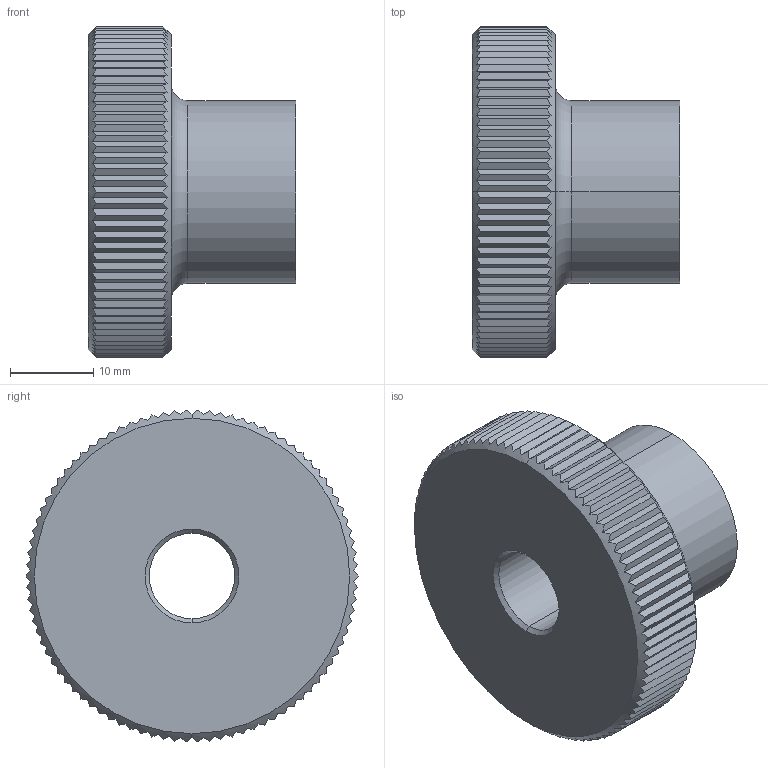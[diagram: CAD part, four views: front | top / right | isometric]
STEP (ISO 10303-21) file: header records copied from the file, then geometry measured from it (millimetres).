
FILE_DESCRIPTION (( 'STEP AP203' ), '1' );
FILE_NAME ('37100.W0012.step', '2015-11-25T13:25:25', ( 'User' ), ( '' ), 'SwSTEP 2.0', 'SolidWorks 2009', '' );
FILE_SCHEMA (( 'CONFIG_CONTROL_DESIGN' ));
Length unit declared in the file: millimetre
Products named in the file (1): 37100.W0012
Bounding box: 25 x 40 x 39.98 mm (x, y, z)
Volume: 15857.7 mm3; surface area: 5421.9 mm2
Topology: 1 solids, 1 shells, 197 faces, 572 edges, 378 vertices
Faces by surface type: plane 183, cone 8, cylinder 4, torus 2
Entity records: 6807 total; most frequent: CARTESIAN_POINT 2228, ORIENTED_EDGE 1144, DIRECTION 628, EDGE_CURVE 572, VERTEX_POINT 378, B_SPLINE_CURVE_WITH_KNOTS 360, AXIS2_PLACEMENT_3D 218, EDGE_LOOP 200
